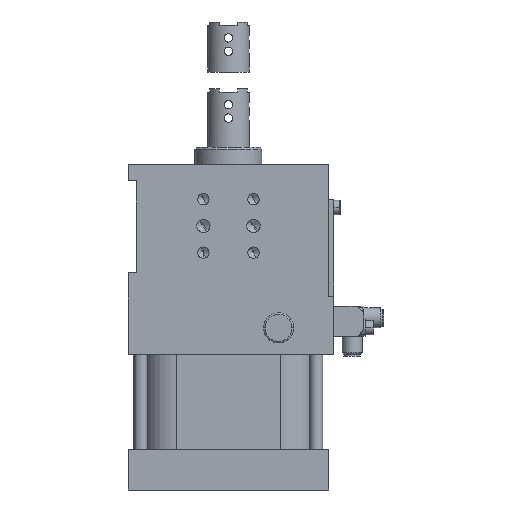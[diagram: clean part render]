
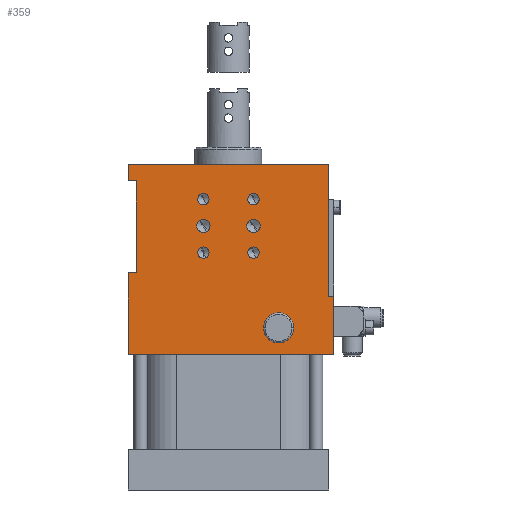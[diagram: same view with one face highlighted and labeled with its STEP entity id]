
A CAD part, front view. The second image highlights one B-rep face of the part: STEP entity #359.
In plain terms, the highlighted planar face has unit normal (0, -1, 0).
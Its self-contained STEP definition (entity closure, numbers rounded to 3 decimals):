
#142=AXIS2_PLACEMENT_3D('Plane Axis2P3D',#139,#140,#141) ;
#235=AXIS2_PLACEMENT_3D('Circle Axis2P3D',#233,#234,$) ;
#244=AXIS2_PLACEMENT_3D('Circle Axis2P3D',#242,#243,$) ;
#253=AXIS2_PLACEMENT_3D('Circle Axis2P3D',#251,#252,$) ;
#262=AXIS2_PLACEMENT_3D('Circle Axis2P3D',#260,#261,$) ;
#271=AXIS2_PLACEMENT_3D('Circle Axis2P3D',#269,#270,$) ;
#280=AXIS2_PLACEMENT_3D('Circle Axis2P3D',#278,#279,$) ;
#289=AXIS2_PLACEMENT_3D('Circle Axis2P3D',#287,#288,$) ;
#298=AXIS2_PLACEMENT_3D('Circle Axis2P3D',#296,#297,$) ;
#307=AXIS2_PLACEMENT_3D('Circle Axis2P3D',#305,#306,$) ;
#316=AXIS2_PLACEMENT_3D('Circle Axis2P3D',#314,#315,$) ;
#325=AXIS2_PLACEMENT_3D('Circle Axis2P3D',#323,#324,$) ;
#334=AXIS2_PLACEMENT_3D('Circle Axis2P3D',#332,#333,$) ;
#343=AXIS2_PLACEMENT_3D('Circle Axis2P3D',#341,#342,$) ;
#352=AXIS2_PLACEMENT_3D('Circle Axis2P3D',#350,#351,$) ;
#99=CARTESIAN_POINT('Vertex',(-60.,-22.5,-114.)) ;
#102=CARTESIAN_POINT('Line Origine',(-60.,-22.5,-89.5)) ;
#106=CARTESIAN_POINT('Vertex',(-60.,-22.5,-65.)) ;
#139=CARTESIAN_POINT('Axis2P3D Location',(60.,-22.5,0.)) ;
#144=CARTESIAN_POINT('Line Origine',(1.5,-22.5,-114.)) ;
#148=CARTESIAN_POINT('Vertex',(63.,-22.5,-114.)) ;
#151=CARTESIAN_POINT('Line Origine',(63.,-22.5,-108.5)) ;
#155=CARTESIAN_POINT('Vertex',(63.,-22.5,-103.)) ;
#158=CARTESIAN_POINT('Line Origine',(63.,-22.5,-94.)) ;
#162=CARTESIAN_POINT('Vertex',(63.,-22.5,-85.)) ;
#165=CARTESIAN_POINT('Line Origine',(63.,-22.5,-82.)) ;
#169=CARTESIAN_POINT('Vertex',(63.,-22.5,-79.)) ;
#172=CARTESIAN_POINT('Line Origine',(61.5,-22.5,-79.)) ;
#176=CARTESIAN_POINT('Vertex',(60.,-22.5,-79.)) ;
#179=CARTESIAN_POINT('Line Origine',(60.,-22.5,-39.5)) ;
#183=CARTESIAN_POINT('Vertex',(60.,-22.5,0.)) ;
#186=CARTESIAN_POINT('Line Origine',(0.,-22.5,0.)) ;
#190=CARTESIAN_POINT('Vertex',(-60.,-22.5,0.)) ;
#193=CARTESIAN_POINT('Line Origine',(-60.,-22.5,-5.)) ;
#197=CARTESIAN_POINT('Vertex',(-60.,-22.5,-10.)) ;
#200=CARTESIAN_POINT('Line Origine',(-57.5,-22.5,-10.)) ;
#204=CARTESIAN_POINT('Vertex',(-55.,-22.5,-10.)) ;
#207=CARTESIAN_POINT('Line Origine',(-55.,-22.5,-37.5)) ;
#211=CARTESIAN_POINT('Vertex',(-55.,-22.5,-65.)) ;
#214=CARTESIAN_POINT('Line Origine',(-57.5,-22.5,-65.)) ;
#233=CARTESIAN_POINT('Axis2P3D Location',(-15.,-22.5,-21.)) ;
#237=CARTESIAN_POINT('Vertex',(-18.4,-22.5,-21.)) ;
#239=CARTESIAN_POINT('Vertex',(-11.6,-22.5,-21.)) ;
#242=CARTESIAN_POINT('Axis2P3D Location',(-15.,-22.5,-21.)) ;
#251=CARTESIAN_POINT('Axis2P3D Location',(15.,-22.5,-21.)) ;
#255=CARTESIAN_POINT('Vertex',(18.4,-22.5,-21.)) ;
#257=CARTESIAN_POINT('Vertex',(11.6,-22.5,-21.)) ;
#260=CARTESIAN_POINT('Axis2P3D Location',(15.,-22.5,-21.)) ;
#269=CARTESIAN_POINT('Axis2P3D Location',(-15.,-22.5,-53.)) ;
#273=CARTESIAN_POINT('Vertex',(-11.6,-22.5,-53.)) ;
#275=CARTESIAN_POINT('Vertex',(-18.4,-22.5,-53.)) ;
#278=CARTESIAN_POINT('Axis2P3D Location',(-15.,-22.5,-53.)) ;
#287=CARTESIAN_POINT('Axis2P3D Location',(30.,-22.5,-98.)) ;
#291=CARTESIAN_POINT('Vertex',(21.,-22.5,-98.)) ;
#293=CARTESIAN_POINT('Vertex',(39.,-22.5,-98.)) ;
#296=CARTESIAN_POINT('Axis2P3D Location',(30.,-22.5,-98.)) ;
#305=CARTESIAN_POINT('Axis2P3D Location',(15.,-22.5,-53.)) ;
#309=CARTESIAN_POINT('Vertex',(11.6,-22.5,-53.)) ;
#311=CARTESIAN_POINT('Vertex',(18.4,-22.5,-53.)) ;
#314=CARTESIAN_POINT('Axis2P3D Location',(15.,-22.5,-53.)) ;
#323=CARTESIAN_POINT('Axis2P3D Location',(15.,-22.5,-37.)) ;
#327=CARTESIAN_POINT('Vertex',(11.,-22.5,-37.)) ;
#329=CARTESIAN_POINT('Vertex',(19.,-22.5,-37.)) ;
#332=CARTESIAN_POINT('Axis2P3D Location',(15.,-22.5,-37.)) ;
#341=CARTESIAN_POINT('Axis2P3D Location',(-15.,-22.5,-37.)) ;
#345=CARTESIAN_POINT('Vertex',(-19.,-22.5,-37.)) ;
#347=CARTESIAN_POINT('Vertex',(-11.,-22.5,-37.)) ;
#350=CARTESIAN_POINT('Axis2P3D Location',(-15.,-22.5,-37.)) ;
#103=DIRECTION('Vector Direction',(0.,0.,-1.)) ;
#140=DIRECTION('Axis2P3D Direction',(0.,-1.,0.)) ;
#141=DIRECTION('Axis2P3D XDirection',(-1.,0.,0.)) ;
#145=DIRECTION('Vector Direction',(1.,0.,0.)) ;
#152=DIRECTION('Vector Direction',(0.,0.,1.)) ;
#159=DIRECTION('Vector Direction',(0.,0.,1.)) ;
#166=DIRECTION('Vector Direction',(0.,0.,1.)) ;
#173=DIRECTION('Vector Direction',(1.,0.,0.)) ;
#180=DIRECTION('Vector Direction',(0.,0.,-1.)) ;
#187=DIRECTION('Vector Direction',(-1.,0.,0.)) ;
#194=DIRECTION('Vector Direction',(0.,0.,-1.)) ;
#201=DIRECTION('Vector Direction',(-1.,0.,0.)) ;
#208=DIRECTION('Vector Direction',(0.,0.,-1.)) ;
#215=DIRECTION('Vector Direction',(-1.,0.,0.)) ;
#234=DIRECTION('Axis2P3D Direction',(0.,-1.,0.)) ;
#243=DIRECTION('Axis2P3D Direction',(0.,-1.,0.)) ;
#252=DIRECTION('Axis2P3D Direction',(0.,-1.,0.)) ;
#261=DIRECTION('Axis2P3D Direction',(0.,-1.,0.)) ;
#270=DIRECTION('Axis2P3D Direction',(0.,-1.,0.)) ;
#279=DIRECTION('Axis2P3D Direction',(0.,-1.,0.)) ;
#288=DIRECTION('Axis2P3D Direction',(0.,-1.,0.)) ;
#297=DIRECTION('Axis2P3D Direction',(0.,-1.,0.)) ;
#306=DIRECTION('Axis2P3D Direction',(0.,-1.,0.)) ;
#315=DIRECTION('Axis2P3D Direction',(0.,-1.,0.)) ;
#324=DIRECTION('Axis2P3D Direction',(0.,-1.,0.)) ;
#333=DIRECTION('Axis2P3D Direction',(0.,-1.,0.)) ;
#342=DIRECTION('Axis2P3D Direction',(0.,-1.,0.)) ;
#351=DIRECTION('Axis2P3D Direction',(0.,-1.,0.)) ;
#104=VECTOR('Line Direction',#103,1.) ;
#146=VECTOR('Line Direction',#145,1.) ;
#153=VECTOR('Line Direction',#152,1.) ;
#160=VECTOR('Line Direction',#159,1.) ;
#167=VECTOR('Line Direction',#166,1.) ;
#174=VECTOR('Line Direction',#173,1.) ;
#181=VECTOR('Line Direction',#180,1.) ;
#188=VECTOR('Line Direction',#187,1.) ;
#195=VECTOR('Line Direction',#194,1.) ;
#202=VECTOR('Line Direction',#201,1.) ;
#209=VECTOR('Line Direction',#208,1.) ;
#216=VECTOR('Line Direction',#215,1.) ;
#220=ORIENTED_EDGE('',*,*,#150,.F.) ;
#221=ORIENTED_EDGE('',*,*,#157,.T.) ;
#222=ORIENTED_EDGE('',*,*,#164,.T.) ;
#223=ORIENTED_EDGE('',*,*,#171,.T.) ;
#224=ORIENTED_EDGE('',*,*,#178,.T.) ;
#225=ORIENTED_EDGE('',*,*,#185,.F.) ;
#226=ORIENTED_EDGE('',*,*,#192,.F.) ;
#227=ORIENTED_EDGE('',*,*,#199,.T.) ;
#228=ORIENTED_EDGE('',*,*,#206,.T.) ;
#229=ORIENTED_EDGE('',*,*,#213,.T.) ;
#230=ORIENTED_EDGE('',*,*,#218,.F.) ;
#231=ORIENTED_EDGE('',*,*,#108,.T.) ;
#248=ORIENTED_EDGE('',*,*,#241,.F.) ;
#249=ORIENTED_EDGE('',*,*,#246,.F.) ;
#266=ORIENTED_EDGE('',*,*,#259,.F.) ;
#267=ORIENTED_EDGE('',*,*,#264,.F.) ;
#284=ORIENTED_EDGE('',*,*,#277,.F.) ;
#285=ORIENTED_EDGE('',*,*,#282,.F.) ;
#302=ORIENTED_EDGE('',*,*,#295,.T.) ;
#303=ORIENTED_EDGE('',*,*,#300,.T.) ;
#320=ORIENTED_EDGE('',*,*,#313,.F.) ;
#321=ORIENTED_EDGE('',*,*,#318,.F.) ;
#338=ORIENTED_EDGE('',*,*,#331,.F.) ;
#339=ORIENTED_EDGE('',*,*,#336,.F.) ;
#356=ORIENTED_EDGE('',*,*,#349,.F.) ;
#357=ORIENTED_EDGE('',*,*,#354,.F.) ;
#250=FACE_BOUND('',#247,.T.) ;
#268=FACE_BOUND('',#265,.T.) ;
#286=FACE_BOUND('',#283,.T.) ;
#304=FACE_BOUND('',#301,.T.) ;
#322=FACE_BOUND('',#319,.T.) ;
#340=FACE_BOUND('',#337,.T.) ;
#358=FACE_BOUND('',#355,.T.) ;
#359=ADVANCED_FACE('SZK_63_BR3_T12_TUENKERS',(#232,#250,#268,#286,#304,#322,#340,#358),#143,.T.) ;
#236=CIRCLE('generated circle',#235,3.4) ;
#245=CIRCLE('generated circle',#244,3.4) ;
#254=CIRCLE('generated circle',#253,3.4) ;
#263=CIRCLE('generated circle',#262,3.4) ;
#272=CIRCLE('generated circle',#271,3.4) ;
#281=CIRCLE('generated circle',#280,3.4) ;
#290=CIRCLE('generated circle',#289,9.) ;
#299=CIRCLE('generated circle',#298,9.) ;
#308=CIRCLE('generated circle',#307,3.4) ;
#317=CIRCLE('generated circle',#316,3.4) ;
#326=CIRCLE('generated circle',#325,4.) ;
#335=CIRCLE('generated circle',#334,4.) ;
#344=CIRCLE('generated circle',#343,4.) ;
#353=CIRCLE('generated circle',#352,4.) ;
#108=EDGE_CURVE('',#107,#100,#105,.T.) ;
#150=EDGE_CURVE('',#149,#100,#147,.F.) ;
#157=EDGE_CURVE('',#149,#156,#154,.T.) ;
#164=EDGE_CURVE('',#156,#163,#161,.T.) ;
#171=EDGE_CURVE('',#163,#170,#168,.T.) ;
#178=EDGE_CURVE('',#170,#177,#175,.F.) ;
#185=EDGE_CURVE('',#184,#177,#182,.T.) ;
#192=EDGE_CURVE('',#191,#184,#189,.F.) ;
#199=EDGE_CURVE('',#191,#198,#196,.T.) ;
#206=EDGE_CURVE('',#198,#205,#203,.F.) ;
#213=EDGE_CURVE('',#205,#212,#210,.T.) ;
#218=EDGE_CURVE('',#107,#212,#217,.F.) ;
#241=EDGE_CURVE('',#238,#240,#236,.T.) ;
#246=EDGE_CURVE('',#240,#238,#245,.T.) ;
#259=EDGE_CURVE('',#256,#258,#254,.T.) ;
#264=EDGE_CURVE('',#258,#256,#263,.T.) ;
#277=EDGE_CURVE('',#274,#276,#272,.T.) ;
#282=EDGE_CURVE('',#276,#274,#281,.T.) ;
#295=EDGE_CURVE('',#292,#294,#290,.F.) ;
#300=EDGE_CURVE('',#294,#292,#299,.F.) ;
#313=EDGE_CURVE('',#310,#312,#308,.T.) ;
#318=EDGE_CURVE('',#312,#310,#317,.T.) ;
#331=EDGE_CURVE('',#328,#330,#326,.T.) ;
#336=EDGE_CURVE('',#330,#328,#335,.T.) ;
#349=EDGE_CURVE('',#346,#348,#344,.T.) ;
#354=EDGE_CURVE('',#348,#346,#353,.T.) ;
#219=EDGE_LOOP('',(#220,#221,#222,#223,#224,#225,#226,#227,#228,#229,#230,#231)) ;
#247=EDGE_LOOP('',(#248,#249)) ;
#265=EDGE_LOOP('',(#266,#267)) ;
#283=EDGE_LOOP('',(#284,#285)) ;
#301=EDGE_LOOP('',(#302,#303)) ;
#319=EDGE_LOOP('',(#320,#321)) ;
#337=EDGE_LOOP('',(#338,#339)) ;
#355=EDGE_LOOP('',(#356,#357)) ;
#232=FACE_OUTER_BOUND('',#219,.T.) ;
#105=LINE('Line',#102,#104) ;
#147=LINE('Line',#144,#146) ;
#154=LINE('Line',#151,#153) ;
#161=LINE('Line',#158,#160) ;
#168=LINE('Line',#165,#167) ;
#175=LINE('Line',#172,#174) ;
#182=LINE('Line',#179,#181) ;
#189=LINE('Line',#186,#188) ;
#196=LINE('Line',#193,#195) ;
#203=LINE('Line',#200,#202) ;
#210=LINE('Line',#207,#209) ;
#217=LINE('Line',#214,#216) ;
#143=PLANE('',#142) ;
#100=VERTEX_POINT('',#99) ;
#107=VERTEX_POINT('',#106) ;
#149=VERTEX_POINT('',#148) ;
#156=VERTEX_POINT('',#155) ;
#163=VERTEX_POINT('',#162) ;
#170=VERTEX_POINT('',#169) ;
#177=VERTEX_POINT('',#176) ;
#184=VERTEX_POINT('',#183) ;
#191=VERTEX_POINT('',#190) ;
#198=VERTEX_POINT('',#197) ;
#205=VERTEX_POINT('',#204) ;
#212=VERTEX_POINT('',#211) ;
#238=VERTEX_POINT('',#237) ;
#240=VERTEX_POINT('',#239) ;
#256=VERTEX_POINT('',#255) ;
#258=VERTEX_POINT('',#257) ;
#274=VERTEX_POINT('',#273) ;
#276=VERTEX_POINT('',#275) ;
#292=VERTEX_POINT('',#291) ;
#294=VERTEX_POINT('',#293) ;
#310=VERTEX_POINT('',#309) ;
#312=VERTEX_POINT('',#311) ;
#328=VERTEX_POINT('',#327) ;
#330=VERTEX_POINT('',#329) ;
#346=VERTEX_POINT('',#345) ;
#348=VERTEX_POINT('',#347) ;
